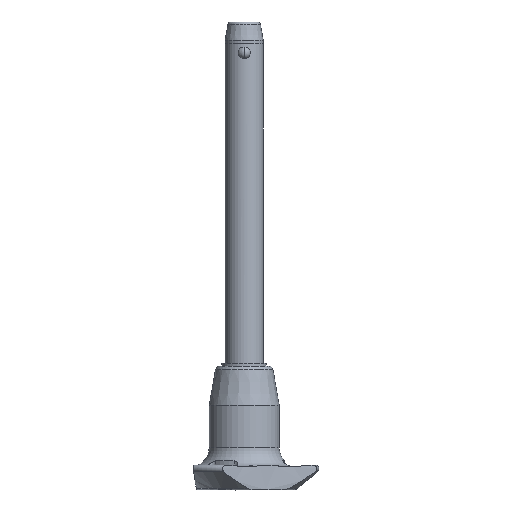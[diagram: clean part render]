
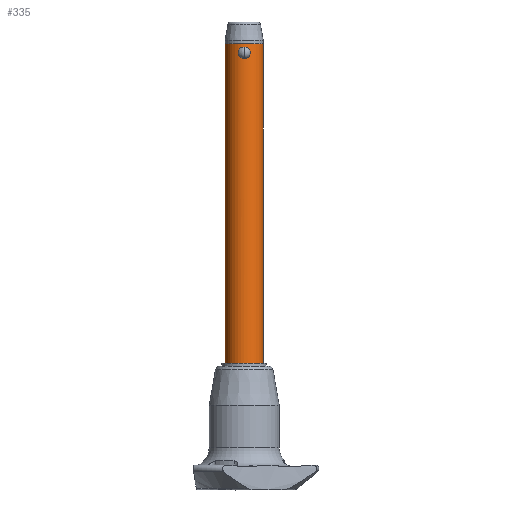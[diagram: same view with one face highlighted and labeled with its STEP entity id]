
A CAD part, front view. The second image highlights one B-rep face of the part: STEP entity #335.
In plain terms, the highlighted cylindrical face has radius 5 mm (diameter 10 mm), a partial arc.
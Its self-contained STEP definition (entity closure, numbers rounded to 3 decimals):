
#76 = EDGE_LOOP ( 'NONE', ( #666, #238, #776, #679 ) ) ;
#78 = FACE_BOUND ( 'NONE', #805, .T. ) ;
#95 = CARTESIAN_POINT ( 'NONE',  ( -0.412, -4.987, 2.997 ) ) ;
#114 = CARTESIAN_POINT ( 'NONE',  ( -0.965, -4.907, 2.738 ) ) ;
#176 = EDGE_CURVE ( 'NONE', #1187, #497, #1388, .T. ) ;
#238 = ORIENTED_EDGE ( 'NONE', *, *, #176, .F. ) ;
#243 = DIRECTION ( 'NONE',  ( 0., 0., 1. ) ) ;
#320 = CARTESIAN_POINT ( 'NONE',  ( 5., 0., -80. ) ) ;
#322 = CARTESIAN_POINT ( 'NONE',  ( -0.412, -4.987, 0.037 ) ) ;
#330 = CARTESIAN_POINT ( 'NONE',  ( 1.434, -4.79, 0.822 ) ) ;
#335 = ADVANCED_FACE ( 'NONE', ( #528, #78 ), #1429, .T. ) ;
#348 = DIRECTION ( 'NONE',  ( 1., 0., 0. ) ) ;
#357 = CARTESIAN_POINT ( 'NONE',  ( 1.604, -4.736, 1.308 ) ) ;
#372 = EDGE_CURVE ( 'NONE', #1187, #1761, #738, .T. ) ;
#373 = CARTESIAN_POINT ( 'NONE',  ( 1.56, -4.751, 1.103 ) ) ;
#479 = VECTOR ( 'NONE', #2094, 1000. ) ;
#497 = VERTEX_POINT ( 'NONE', #1280 ) ;
#500 = CARTESIAN_POINT ( 'NONE',  ( -1.394, -4.802, 0.731 ) ) ;
#513 = CARTESIAN_POINT ( 'NONE',  ( -1.264, -4.838, 2.464 ) ) ;
#528 = FACE_OUTER_BOUND ( 'NONE', #76, .T. ) ;
#530 = CARTESIAN_POINT ( 'NONE',  ( -0.791, -4.938, 2.844 ) ) ;
#547 = ORIENTED_EDGE ( 'NONE', *, *, #1064, .F. ) ;
#550 = CARTESIAN_POINT ( 'NONE',  ( 0., -5., 3.033 ) ) ;
#555 = CARTESIAN_POINT ( 'NONE',  ( 0., -5., 3.033 ) ) ;
#568 = CARTESIAN_POINT ( 'NONE',  ( 1.384, -4.805, 0.735 ) ) ;
#587 = CARTESIAN_POINT ( 'NONE',  ( 1.196, -4.855, 0.493 ) ) ;
#632 = DIRECTION ( 'NONE',  ( 1., 0., 0. ) ) ;
#666 = ORIENTED_EDGE ( 'NONE', *, *, #1996, .F. ) ;
#679 = ORIENTED_EDGE ( 'NONE', *, *, #2571, .F. ) ;
#738 = LINE ( 'NONE', #320, #479 ) ;
#756 = CARTESIAN_POINT ( 'NONE',  ( -1.56, -4.751, 1.931 ) ) ;
#775 = CARTESIAN_POINT ( 'NONE',  ( -1.594, -4.739, 1.312 ) ) ;
#776 = ORIENTED_EDGE ( 'NONE', *, *, #372, .T. ) ;
#777 = CARTESIAN_POINT ( 'NONE',  ( 5., 0., 3.84 ) ) ;
#781 = CARTESIAN_POINT ( 'NONE',  ( 0.966, -4.907, 0.296 ) ) ;
#805 = EDGE_LOOP ( 'NONE', ( #547, #2652 ) ) ;
#923 = CARTESIAN_POINT ( 'NONE',  ( -0.699, -4.952, 0.145 ) ) ;
#937 = CARTESIAN_POINT ( 'NONE',  ( 0., -5., 0. ) ) ;
#959 = CARTESIAN_POINT ( 'NONE',  ( 1.048, -4.889, 2.676 ) ) ;
#985 = CARTESIAN_POINT ( 'NONE',  ( -1.047, -4.89, 2.676 ) ) ;
#1018 = CARTESIAN_POINT ( 'NONE',  ( -5., 0., 3.84 ) ) ;
#1053 = DIRECTION ( 'NONE',  ( 0., 0., -1. ) ) ;
#1064 = EDGE_CURVE ( 'NONE', #2282, #2388, #2511, .T. ) ;
#1176 = CARTESIAN_POINT ( 'NONE',  ( -1.519, -4.764, 1.013 ) ) ;
#1187 = VERTEX_POINT ( 'NONE', #2008 ) ;
#1210 = CARTESIAN_POINT ( 'NONE',  ( 0., -5., 0. ) ) ;
#1212 = AXIS2_PLACEMENT_3D ( 'NONE', #2585, #1053, #632 ) ;
#1219 = CARTESIAN_POINT ( 'NONE',  ( -0.205, -5., 0. ) ) ;
#1228 = CARTESIAN_POINT ( 'NONE',  ( 1.604, -4.736, 1.619 ) ) ;
#1240 = CARTESIAN_POINT ( 'NONE',  ( 1.519, -4.764, 2.021 ) ) ;
#1280 = CARTESIAN_POINT ( 'NONE',  ( -5., 0., -80. ) ) ;
#1293 = EDGE_CURVE ( 'NONE', #2388, #2282, #2637, .T. ) ;
#1384 = CARTESIAN_POINT ( 'NONE',  ( -1.604, -4.736, 1.416 ) ) ;
#1388 = CIRCLE ( 'NONE', #1212, 5. ) ;
#1391 = CARTESIAN_POINT ( 'NONE',  ( 0.208, -5., 3.033 ) ) ;
#1403 = CARTESIAN_POINT ( 'NONE',  ( -0.966, -4.907, 0.296 ) ) ;
#1429 = CYLINDRICAL_SURFACE ( 'NONE', #1437, 5. ) ;
#1432 = CARTESIAN_POINT ( 'NONE',  ( -1.604, -4.736, 1.724 ) ) ;
#1437 = AXIS2_PLACEMENT_3D ( 'NONE', #2486, #2303, #348 ) ;
#1505 = CIRCLE ( 'NONE', #2596, 5. ) ;
#1543 = LINE ( 'NONE', #2627, #1860 ) ;
#1614 = CARTESIAN_POINT ( 'NONE',  ( -0.7, -4.952, 2.888 ) ) ;
#1658 = CARTESIAN_POINT ( 'NONE',  ( 1.047, -4.89, 0.356 ) ) ;
#1672 = CARTESIAN_POINT ( 'NONE',  ( 0.966, -4.907, 2.738 ) ) ;
#1677 = DIRECTION ( 'NONE',  ( 0., 0., 1. ) ) ;
#1761 = VERTEX_POINT ( 'NONE', #777 ) ;
#1844 = CARTESIAN_POINT ( 'NONE',  ( -0.208, -5., 3.033 ) ) ;
#1854 = CARTESIAN_POINT ( 'NONE',  ( 1.551, -4.753, 1.922 ) ) ;
#1860 = VECTOR ( 'NONE', #243, 1000. ) ;
#1865 = CARTESIAN_POINT ( 'NONE',  ( -1.383, -4.805, 2.299 ) ) ;
#1996 = EDGE_CURVE ( 'NONE', #497, #2713, #1543, .T. ) ;
#2008 = CARTESIAN_POINT ( 'NONE',  ( 5., 0., -80. ) ) ;
#2044 = CARTESIAN_POINT ( 'NONE',  ( -1.047, -4.89, 0.357 ) ) ;
#2051 = CARTESIAN_POINT ( 'NONE',  ( 0.7, -4.952, 2.888 ) ) ;
#2060 = CARTESIAN_POINT ( 'NONE',  ( -1.551, -4.753, 1.11 ) ) ;
#2068 = CARTESIAN_POINT ( 'NONE',  ( 0.699, -4.952, 0.144 ) ) ;
#2094 = DIRECTION ( 'NONE',  ( 0., 0., 1. ) ) ;
#2103 = CARTESIAN_POINT ( 'NONE',  ( 0.412, -4.987, 2.996 ) ) ;
#2278 = CARTESIAN_POINT ( 'NONE',  ( -0.792, -4.938, 0.19 ) ) ;
#2282 = VERTEX_POINT ( 'NONE', #2601 ) ;
#2284 = CARTESIAN_POINT ( 'NONE',  ( 0.792, -4.938, 2.844 ) ) ;
#2303 = DIRECTION ( 'NONE',  ( 0., 0., 1. ) ) ;
#2313 = CARTESIAN_POINT ( 'NONE',  ( 1.395, -4.802, 2.301 ) ) ;
#2329 = CARTESIAN_POINT ( 'NONE',  ( 1.265, -4.838, 0.57 ) ) ;
#2333 = DIRECTION ( 'NONE',  ( 1., 0., 0. ) ) ;
#2388 = VERTEX_POINT ( 'NONE', #2798 ) ;
#2486 = CARTESIAN_POINT ( 'NONE',  ( 0., 0., -80. ) ) ;
#2488 = CARTESIAN_POINT ( 'NONE',  ( -1.197, -4.855, 2.539 ) ) ;
#2511 = B_SPLINE_CURVE_WITH_KNOTS ( 'NONE', 3,
 ( #550, #1844, #95, #1614, #530, #114, #985, #2488, #513, #1865, #2717, #756, #1432, #1384, #775, #2060, #1176, #500, #2522, #2044, #1403, #2278, #923, #322, #1219, #937 ),
 .UNSPECIFIED., .F., .F.,
 ( 4, 2, 2, 2, 2, 2, 2, 2, 2, 2, 2, 2, 4 ),
 ( 0., 0.001, 0.001, 0.001, 0.002, 0.002, 0.002, 0.003, 0.003, 0.004, 0.004, 0.004, 0.005 ),
 .UNSPECIFIED. ) ;
#2513 = CARTESIAN_POINT ( 'NONE',  ( 0.205, -5., 0. ) ) ;
#2522 = CARTESIAN_POINT ( 'NONE',  ( -1.272, -4.838, 0.564 ) ) ;
#2571 = EDGE_CURVE ( 'NONE', #2713, #1761, #1505, .T. ) ;
#2585 = CARTESIAN_POINT ( 'NONE',  ( 0., 0., -80. ) ) ;
#2596 = AXIS2_PLACEMENT_3D ( 'NONE', #2759, #1677, #2333 ) ;
#2601 = CARTESIAN_POINT ( 'NONE',  ( 0., -5., 3.033 ) ) ;
#2627 = CARTESIAN_POINT ( 'NONE',  ( -5., 0., -80. ) ) ;
#2637 = B_SPLINE_CURVE_WITH_KNOTS ( 'NONE', 3,
 ( #1210, #2513, #2741, #2068, #2756, #781, #1658, #587, #2329, #568, #330, #373, #357, #1228, #2770, #1854, #1240, #2313, #2727, #959, #1672, #2284, #2051, #2103, #1391, #555 ),
 .UNSPECIFIED., .F., .F.,
 ( 4, 2, 2, 2, 2, 2, 2, 2, 2, 2, 2, 2, 4 ),
 ( 0.005, 0.006, 0.006, 0.006, 0.006, 0.007, 0.007, 0.008, 0.008, 0.009, 0.009, 0.009, 0.01 ),
 .UNSPECIFIED. ) ;
#2652 = ORIENTED_EDGE ( 'NONE', *, *, #1293, .F. ) ;
#2713 = VERTEX_POINT ( 'NONE', #1018 ) ;
#2717 = CARTESIAN_POINT ( 'NONE',  ( -1.435, -4.79, 2.209 ) ) ;
#2727 = CARTESIAN_POINT ( 'NONE',  ( 1.272, -4.838, 2.47 ) ) ;
#2741 = CARTESIAN_POINT ( 'NONE',  ( 0.412, -4.987, 0.037 ) ) ;
#2756 = CARTESIAN_POINT ( 'NONE',  ( 0.792, -4.938, 0.19 ) ) ;
#2759 = CARTESIAN_POINT ( 'NONE',  ( 0., 0., 3.84 ) ) ;
#2770 = CARTESIAN_POINT ( 'NONE',  ( 1.594, -4.739, 1.721 ) ) ;
#2798 = CARTESIAN_POINT ( 'NONE',  ( 0., -5., 0. ) ) ;
